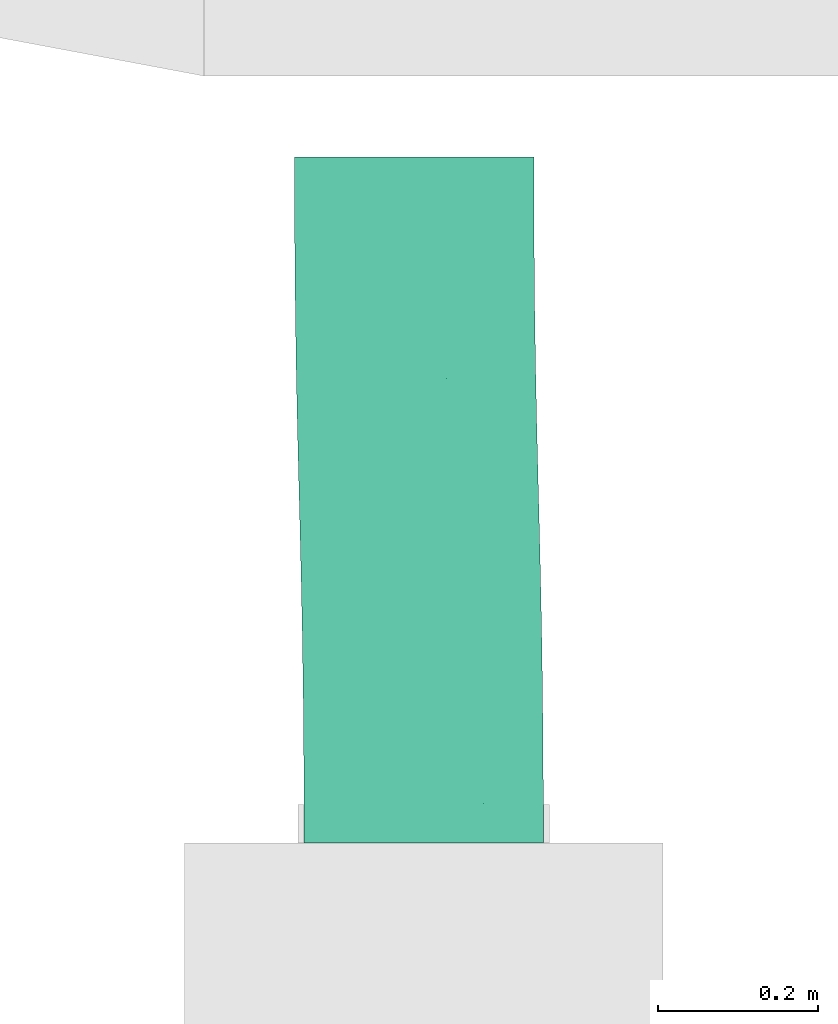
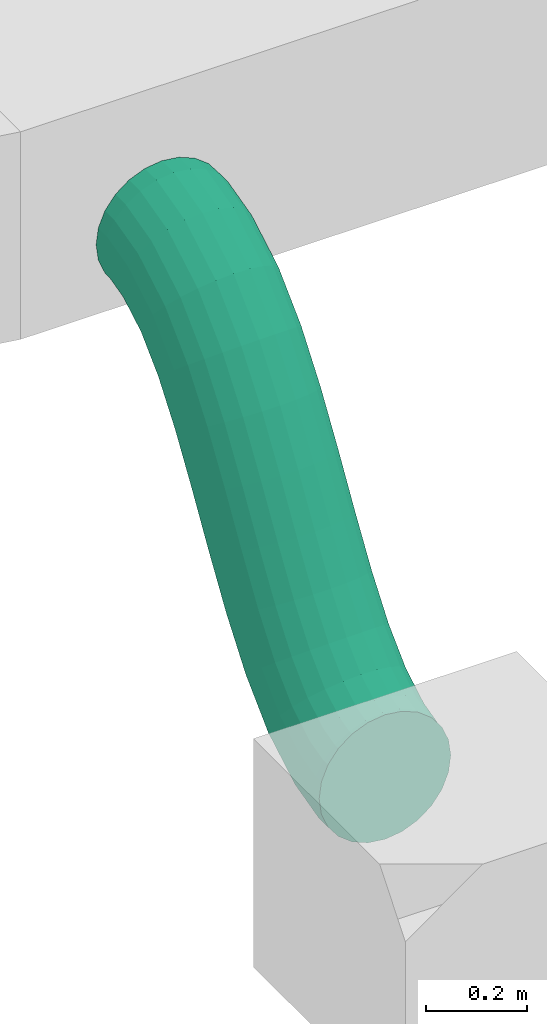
# One storey, part 45 of 60: 1 flow segment.
"""IFC2X3 building model written with IfcOpenShell, lengths in millimetres."""

from ifc_helpers import new_model, entity, si_unit, converted_unit, derived_unit, direction, frame, origin, place, context, subcontext, project, spatial, faceted_brep, type_object, element, save


model = new_model("IFC2X3")

# Units and contexts
model_context = context("Model", 3, precision=0.01, world=origin(), true_north=direction((6.123233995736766e-17, 1.0)))
body_context = subcontext(model_context, "Body", "Model", "MODEL_VIEW")
ifc_project = project(units=[si_unit("LENGTHUNIT", "METRE", prefix="MILLI"), converted_unit("PLANEANGLEUNIT", "DEGREE", entity("IfcPlaneAngleMeasure", 0.017453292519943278), si_unit("PLANEANGLEUNIT", "RADIAN"), dimensions=[0, 0, 0, 0, 0, 0, 0]), si_unit("AREAUNIT", "SQUARE_METRE"), derived_unit("THERMALTRANSMITTANCEUNIT", [(si_unit("MASSUNIT", "GRAM", prefix="KILO"), 1), (si_unit("THERMODYNAMICTEMPERATUREUNIT", "KELVIN"), -1), (si_unit("TIMEUNIT", "SECOND"), -3)])], contexts=[model_context])

# Site, building, storey
site_placement = place(None, origin())
site = spatial("IfcSite", under=ifc_project, at=site_placement, Name="Default", CompositionType="ELEMENT")
building_placement = place(site_placement, origin())
building = spatial("IfcBuilding", under=site, at=building_placement, Name="Praça Pedro II, 1301 - Centro (Sul), Teresina - PI, 64001-100", CompositionType="ELEMENT")
storey_placement = place(building_placement, frame((0.0, 0.0, 6040.0)))
storey = spatial("IfcBuildingStorey", under=building, at=storey_placement, Name="2PAV", CompositionType="ELEMENT", Elevation=6040.0)

# Flow segment
duct_segment_type = type_object("IfcDuctSegmentType", Name="Duto flexível redondo:Flexível - Redondo", PredefinedType="FLEXIBLESEGMENT")
flow_segment_placement = place(storey_placement, frame((26349.071672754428, -65980.92492894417, 2510.904727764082)))
element("IfcFlowSegment", 1, at=flow_segment_placement, inside=storey, type_object=duct_segment_type, Name="Duto flexível redondo:Flexível - Redondo", ObjectType="Duto flexível redondo:Flexível - Redondo", context=body_context, shape_type="Brep", body=[
    faceted_brep([(57.52001102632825, 0.0, 45.52925505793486), (88.58602820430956, 0.0, 21.691461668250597), (124.76317143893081, 0.0, 6.706398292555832), (163.58602820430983, 0.0, 1.5952722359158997), (202.40888496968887, 0.0, 6.706398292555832), (238.5860282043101, 0.0, 21.691461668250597), (269.6520453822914, 0.0, 45.529255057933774), (293.48983877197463, 0.0, 76.59527223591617), (308.47490214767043, 0.0, 112.77241547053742), (313.58602820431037, 0.0, 151.59527223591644), (308.47490214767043, 0.0, 190.4181290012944), (293.48983877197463, 0.0, 226.59527223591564), (269.6520453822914, 0.0, 257.66128941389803), (238.5860282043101, 0.0, 281.4990828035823), (202.40888496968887, 0.0, 296.48414617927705), (163.58602820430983, 0.0, 301.595272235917), (124.76317143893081, 0.0, 296.48414617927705), (88.58602820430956, 0.0, 281.4990828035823), (57.52001102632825, 0.0, 257.66128941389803), (33.68221763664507, 0.0, 226.59527223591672), (18.69715426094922, 0.0, 190.4181290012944), (13.586028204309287, 0.0, 151.59527223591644), (18.69715426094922, 0.0, 112.7724154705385), (33.68221763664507, 0.0, 76.59527223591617), (18.69715426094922, 32.751106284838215, 112.77241547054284), (33.68221763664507, 37.467786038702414, 76.59527223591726), (57.52001102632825, 41.53894192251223, 45.52925505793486), (13.586028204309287, 27.710336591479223, 151.59527223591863), (88.58602820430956, 44.68713139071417, 21.69146166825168), (124.76317143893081, 46.69781053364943, 6.706398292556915), (163.58602820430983, 47.43395489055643, 1.5952722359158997), (202.40888496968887, 46.8453974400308, 6.706398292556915), (238.5860282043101, 44.97224739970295, 21.69146166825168), (269.6520453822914, 41.94215684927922, 45.52925505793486), (293.48983877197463, 37.961621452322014, 76.59527223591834), (308.47490214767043, 33.30190811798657, 112.77241547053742), (313.58602820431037, 28.280568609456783, 151.59527223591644), (308.47490214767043, 23.23979891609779, 190.41812900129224), (293.48983877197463, 18.523119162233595, 226.59527223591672), (269.65204538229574, 14.451963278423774, 257.66128941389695), (202.40888496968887, 9.293094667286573, 296.48414617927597), (163.58602820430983, 8.55695031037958, 301.595272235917), (238.58602820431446, 11.303773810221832, 281.49908280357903), (88.58602820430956, 11.018657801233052, 281.4990828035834), (57.52001102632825, 14.048748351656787, 257.6612894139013), (124.76317143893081, 9.145507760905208, 296.48414617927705), (18.69715426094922, 22.688997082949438, 190.4181290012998), (33.68221763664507, 18.029283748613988, 226.59527223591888), (112.77241547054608, 859.4168935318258, 824.2063982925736), (76.59527223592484, 859.4168935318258, 839.1914616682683), (45.52925505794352, 859.4168935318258, 863.0292550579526), (21.69146166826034, 859.4168935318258, 894.0952722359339), (6.706398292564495, 859.4168935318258, 930.2724154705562), (1.5952722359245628, 859.4168935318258, 969.0952722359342), (6.706398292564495, 859.4168935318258, 1007.9181290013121), (21.69146166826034, 859.4168935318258, 1044.0952722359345), (45.52925505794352, 859.4168935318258, 1075.1612894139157), (76.59527223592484, 859.4168935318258, 1098.9990828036), (112.77241547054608, 859.4168935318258, 1113.9841461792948), (151.5952722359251, 859.4168935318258, 1119.0952722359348), (190.41812900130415, 859.4168935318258, 1113.9841461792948), (226.5952722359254, 859.4168935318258, 1098.9990828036), (257.66128941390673, 859.4168935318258, 1075.1612894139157), (281.4990828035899, 859.4168935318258, 1044.0952722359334), (296.48414617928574, 859.4168935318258, 1007.9181290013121), (301.5952722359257, 859.4168935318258, 969.0952722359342), (296.48414617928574, 859.4168935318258, 930.2724154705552), (281.4990828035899, 859.4168935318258, 894.0952722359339), (257.66128941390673, 859.4168935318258, 863.0292550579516), (226.5952722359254, 859.4168935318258, 839.1914616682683), (190.41812900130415, 859.4168935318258, 824.2063982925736), (151.5952722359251, 859.4168935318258, 819.0952722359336), (13.308991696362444, 99.3609277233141, 170.48293418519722), (18.380562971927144, 114.63184169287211, 134.35682428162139), (33.32861469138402, 128.92093147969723, 100.70304396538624), (57.1344618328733, 141.2544192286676, 71.81504274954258), (88.17577525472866, 150.79179813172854, 49.66149017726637), (124.33714074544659, 156.88311157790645, 35.752114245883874), (163.1542210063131, 159.11324662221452, 31.034815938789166), (201.9816961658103, 157.3302232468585, 35.8310713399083), (238.17353795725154, 151.65555154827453, 49.81402356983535), (269.2633321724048, 142.47595102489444, 72.03075754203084), (293.1323607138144, 130.4169962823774, 100.96723955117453), (308.1539887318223, 116.30048515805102, 134.6514961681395), (313.30451710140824, 101.08843455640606, 170.78800097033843), (308.2329458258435, 85.81752058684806, 206.91411087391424), (293.2848941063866, 71.52843080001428, 240.5678911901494), (269.47904696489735, 59.19494305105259, 269.45589240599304), (238.437733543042, 49.657564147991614, 291.6094449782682), (202.27636805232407, 43.56625070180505, 305.5188209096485), (163.45928779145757, 41.33611565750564, 310.2361192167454), (88.43997084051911, 48.79381073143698, 291.456911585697), (57.35017662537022, 57.97341125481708, 269.2401776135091), (124.63181263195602, 43.11913903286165, 305.43986381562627), (18.459520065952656, 84.14887712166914, 206.61943898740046), (33.48114808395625, 70.03236599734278, 240.30369560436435), (12.54772206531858, 185.81915888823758, 222.3844093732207), (17.540068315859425, 210.0877462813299, 191.65966516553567), (32.413988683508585, 232.79601540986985, 163.0599765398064), (56.15585007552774, 252.3964352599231, 138.5343650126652), (87.14768387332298, 267.5532696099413, 119.7542104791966), (123.27744782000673, 277.23360524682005, 107.99934943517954), (162.08295820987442, 280.7777432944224, 104.07085623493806), (200.91968363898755, 277.9441566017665, 108.23645119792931), (237.1409654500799, 268.92594941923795, 120.21225591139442), (268.2783831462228, 254.3376976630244, 139.1821390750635), (292.209973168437, 235.17356658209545, 163.85333450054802), (307.3048372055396, 212.73956003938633, 192.54454099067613), (312.5342852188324, 188.56451850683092, 223.30050023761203), (307.54193896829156, 164.29593111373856, 254.0252444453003), (292.6680186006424, 141.5876619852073, 282.6249330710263), (268.92615720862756, 121.98724213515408, 307.1505445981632), (237.93432341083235, 106.83040778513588, 325.9306991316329), (201.80455946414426, 97.15007214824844, 337.6855601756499), (162.99904907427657, 93.60593410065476, 341.6140533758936), (124.16232364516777, 96.43952079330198, 337.44845841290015), (87.94104183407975, 105.45772797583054, 325.4726536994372), (56.803624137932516, 120.04597973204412, 306.50277053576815), (17.77717007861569, 161.6441173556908, 253.1403686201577), (32.87203411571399, 139.2101108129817, 281.8315751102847), (11.408303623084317, 262.1597913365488, 300.06713254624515), (16.317497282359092, 291.99957292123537, 275.0115257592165), (31.11361124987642, 319.9208433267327, 251.71648450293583), (54.7883148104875, 344.02081411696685, 231.76952734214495), (85.72821604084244, 362.6571121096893, 216.53000644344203), (121.82481180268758, 374.55970439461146, 207.036469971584), (160.61817874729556, 378.9174489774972, 203.9358867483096), (199.4646130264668, 375.4333727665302, 207.4395563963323), (235.7167943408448, 364.34490979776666, 217.30870961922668), (266.9041964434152, 346.40772049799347, 232.87077993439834), (290.90144942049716, 322.84419467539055, 253.06523796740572), (306.07318013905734, 295.2601476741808, 276.5158647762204), (311.38546022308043, 265.53538671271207, 301.62453889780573), (306.4762665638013, 235.6956051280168, 326.68014568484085), (291.68015259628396, 207.77433472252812, 349.9751869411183), (268.00544903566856, 183.67436393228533, 369.9221441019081), (237.06554780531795, 165.0380659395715, 385.1616650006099), (200.96895204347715, 153.13547365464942, 394.6552014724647), (162.17558509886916, 148.77772907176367, 397.75578469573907), (123.32915081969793, 152.26180528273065, 394.25211504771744), (87.07696950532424, 163.35026825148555, 384.38296182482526), (55.88956740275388, 181.2874575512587, 368.82089150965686), (16.720583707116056, 232.4350303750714, 325.17580666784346), (31.892314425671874, 204.85098337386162, 348.62643347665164), (9.996982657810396, 331.3000615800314, 396.28749531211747), (14.851975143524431, 363.79514545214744, 374.9271900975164), (29.597372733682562, 394.200998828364, 355.0898656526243), (53.228300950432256, 420.44551304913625, 338.12740285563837), (84.13435108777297, 440.740167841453, 325.1957655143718), (120.20932690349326, 453.70191601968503, 317.1762233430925), (158.994778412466, 458.44743586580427, 314.61529488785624), (197.8475411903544, 454.6533280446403, 317.6875031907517), (234.1198636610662, 442.5781547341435, 326.1834823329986), (265.3398469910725, 423.0448190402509, 339.5242453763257), (289.37990090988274, 397.3844855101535, 356.8006413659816), (304.6017354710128, 367.3458634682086, 376.8353124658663), (309.9680078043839, 334.97603536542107, 398.26292894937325), (305.11301531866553, 302.48095149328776, 419.6232341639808), (290.3676177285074, 272.07509811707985, 439.4605586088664), (266.73668951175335, 245.83058389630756, 456.42302140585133), (235.830639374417, 225.53592910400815, 469.35465874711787), (199.75566355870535, 212.5741809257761, 477.37420091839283), (160.9702120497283, 207.8286610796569, 479.9351293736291), (122.11744927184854, 211.62276890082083, 476.86292107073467), (85.8451268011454, 223.697942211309, 468.3669419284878), (54.62514347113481, 243.2312779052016, 455.0261788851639), (15.36325499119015, 298.9302334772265, 417.7151117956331), (30.585089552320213, 268.8916114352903, 437.7497828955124), (8.421884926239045, 396.11176687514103, 503.67375177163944), (13.251278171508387, 429.660201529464, 484.0587392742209), (27.972722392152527, 461.05168182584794, 465.85449614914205), (51.58297549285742, 488.1469302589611, 450.30161148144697), (82.47303774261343, 509.09945042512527, 438.4599886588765), (118.53780244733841, 522.481362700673, 431.1366147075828), (157.3195154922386, 527.3807118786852, 428.8305654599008), (196.17526722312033, 523.4636154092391, 431.69899436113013), (232.45710237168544, 510.9970169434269, 439.5464227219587), (263.69247383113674, 490.8304945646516, 451.8380612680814), (287.75274265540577, 464.33836344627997, 467.73625514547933), (302.9982412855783, 433.3260185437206, 486.15756871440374), (308.39001418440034, 399.9068999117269, 505.84661989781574), (303.56062093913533, 366.35846525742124, 525.4616323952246), (288.83917671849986, 334.9669849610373, 543.6658755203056), (265.22892361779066, 307.8717365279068, 559.2187601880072), (234.3388613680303, 286.91921636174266, 571.0603830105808), (198.27409666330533, 273.537304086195, 578.3837569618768), (159.4923836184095, 268.63795490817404, 580.6898062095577), (120.63663188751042, 272.5550513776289, 577.8213773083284), (84.35479673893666, 285.0216498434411, 569.9739489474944), (53.11942527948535, 305.18817222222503, 557.6823104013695), (13.813657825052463, 362.6926482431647, 523.3628029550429), (29.05915645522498, 331.68030334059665, 541.7841165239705), (11.620679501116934, 493.0584282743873, 595.2289120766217), (26.342123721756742, 524.4499085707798, 577.0246689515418), (6.791286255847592, 459.509993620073, 614.8439245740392), (49.952376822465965, 551.545157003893, 561.4717842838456), (80.84243907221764, 572.4976771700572, 549.6301614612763), (116.90720377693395, 585.8795894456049, 542.3067875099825), (155.6889168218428, 590.7789386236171, 540.0007382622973), (194.54466855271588, 586.8618421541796, 542.8691671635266), (230.82650370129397, 574.3952436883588, 550.7165955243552), (262.0618751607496, 554.2287213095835, 563.0082340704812), (301.36764261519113, 496.72424528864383, 597.3277415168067), (306.7594155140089, 463.3051266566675, 617.0167927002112), (286.1221439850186, 527.7365901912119, 578.9064279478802), (301.93002226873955, 429.7566920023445, 636.6318051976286), (287.2085780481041, 398.3652117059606, 654.8360483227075), (263.59832494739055, 371.26996327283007, 670.3889329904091), (232.70826269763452, 350.3174431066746, 682.2305558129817), (196.64349799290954, 336.93553083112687, 689.5539297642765), (157.86178494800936, 332.0361816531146, 691.8599790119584), (119.00603321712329, 335.9532781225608, 688.9915501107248), (82.72419806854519, 348.41987658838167, 681.1441217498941), (51.4888266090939, 368.586398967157, 668.8524832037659), (27.428557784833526, 395.07853008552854, 652.9542893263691), (12.18305915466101, 426.09087498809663, 634.5329757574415), (10.0682851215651, 556.9359420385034, 701.067310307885), (24.813682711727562, 587.3417954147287, 681.2299858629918), (5.213292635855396, 524.4408581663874, 722.427615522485), (48.44461092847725, 613.5863096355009, 664.2675230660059), (79.35066106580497, 633.8809644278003, 651.3358857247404), (115.42563688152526, 646.8427126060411, 643.31634355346), (154.21108839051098, 651.5882324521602, 640.7554150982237), (193.06385116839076, 647.7941246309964, 643.8276234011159), (229.33617363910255, 635.7189513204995, 652.3236025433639), (260.55615696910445, 616.1856156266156, 665.6643655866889), (299.81804544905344, 560.4866600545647, 702.9754326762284), (305.1843177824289, 528.1168319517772, 724.4030491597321), (284.5962108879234, 590.5252820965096, 682.9407615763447), (300.3293252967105, 495.62174807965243, 745.7633543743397), (285.5839277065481, 465.21589470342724, 765.6006788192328), (261.9529994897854, 438.9713804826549, 782.563141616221), (231.04694935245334, 418.6767256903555, 795.4947789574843), (194.97197353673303, 405.7149775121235, 803.5143211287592), (156.1865220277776, 400.96945766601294, 806.0752495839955), (117.33375924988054, 404.7635654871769, 803.0030412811), (81.06143677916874, 416.83873879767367, 794.507062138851), (49.84145344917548, 436.3720744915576, 781.1662990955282), (25.80139953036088, 462.03240802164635, 763.8899031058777), (10.57956496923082, 492.07103006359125, 743.8552320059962), (8.70503387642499, 623.7212884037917, 794.0103987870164), (23.501147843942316, 651.6425588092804, 770.7153575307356), (3.7958402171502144, 593.8815068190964, 819.0660055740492), (47.175851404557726, 675.7425295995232, 750.7684003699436), (78.11575263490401, 694.378827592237, 735.5288794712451), (114.21234839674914, 706.2814198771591, 726.0353429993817), (153.00571534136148, 710.6391644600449, 722.9347597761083), (191.85214962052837, 707.1550882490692, 726.4384294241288), (228.1043309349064, 696.0666252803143, 736.307582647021), (259.2917330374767, 678.1294359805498, 751.8696529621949), (298.4607167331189, 626.9818631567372, 795.5147378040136), (303.7729968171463, 597.2571021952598, 820.6234119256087), (283.2889860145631, 654.5659101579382, 772.0641109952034), (298.86380315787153, 567.4173206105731, 845.6790187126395), (284.06768919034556, 539.4960502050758, 868.9740599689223), (260.3929856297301, 515.396079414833, 888.9210171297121), (229.4530843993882, 496.75978142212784, 904.1605380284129), (193.35648863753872, 484.8571891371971, 913.654074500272), (154.56312169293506, 480.49944455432, 916.7546577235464), (115.71668741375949, 483.983520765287, 913.2509880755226), (79.4645060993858, 495.0719837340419, 903.3818348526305), (48.27710399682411, 513.0091730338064, 887.8197645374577), (24.27985101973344, 536.572698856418, 867.6253065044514), (9.108120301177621, 564.1567458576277, 844.1746796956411), (7.639361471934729, 695.1209624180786, 866.6653000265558), (22.513281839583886, 717.8292315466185, 838.0656114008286), (2.6470152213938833, 670.8523750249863, 897.390044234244), (46.25514323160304, 737.4296513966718, 813.5399998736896), (77.24697702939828, 752.58648574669, 794.759845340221), (113.37674097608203, 762.2668213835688, 783.0049842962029), (152.18225136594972, 765.8109594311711, 779.0764910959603), (191.01897679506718, 762.9773727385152, 783.2420860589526), (227.2402586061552, 753.9591655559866, 795.2178907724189), (258.3776763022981, 739.3709137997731, 814.1877739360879), (297.40413036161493, 697.772776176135, 867.5501758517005), (302.6335783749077, 673.5977346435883, 898.3061350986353), (282.3092663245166, 720.2067827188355, 838.8589693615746), (297.64123212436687, 649.3291472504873, 929.0308793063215), (282.76731175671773, 626.620878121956, 957.6305679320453), (259.02545036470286, 607.0204582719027, 982.1561794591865), (228.0336165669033, 591.8636239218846, 1000.9363339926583), (191.90385262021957, 582.1832882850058, 1012.6911950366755), (153.09834223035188, 578.6391502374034, 1016.6196882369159), (114.26161680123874, 581.4727369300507, 1012.4540932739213), (78.04033499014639, 590.490944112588, 1000.4782885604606), (46.90291729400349, 605.0791958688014, 981.5084053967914), (22.97132727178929, 624.2433269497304, 956.837209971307), (7.876463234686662, 646.6773334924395, 928.14600348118), (6.948354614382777, 773.5993729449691, 913.776433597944), (21.89640633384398, 787.8884627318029, 880.1226532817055), (1.8767833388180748, 758.3284589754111, 949.9025435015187), (45.70225347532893, 800.2219504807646, 851.234652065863), (76.74356689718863, 809.7593293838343, 829.0810994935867), (112.90493238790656, 815.8506428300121, 815.1717235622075), (151.72201264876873, 818.0807778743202, 810.454425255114), (190.54948780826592, 816.2977544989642, 815.250680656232), (226.74132959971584, 810.6230828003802, 829.2336328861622), (257.8311238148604, 801.4434822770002, 851.4503668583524), (296.72178037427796, 775.268016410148, 914.0711054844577), (301.87230874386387, 760.0559658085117, 950.2076102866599), (281.7001523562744, 789.3845275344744, 880.3868488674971), (296.80073746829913, 744.785051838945, 986.3337201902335), (281.8526857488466, 730.4959620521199, 1019.9875005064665), (258.0468386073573, 718.1624743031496, 1048.8755017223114), (227.00552518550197, 708.6250954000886, 1071.0290542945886), (190.84415969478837, 702.5337819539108, 1084.938430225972), (152.02707943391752, 700.3036469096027, 1089.6557285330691), (113.19960427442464, 702.0866702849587, 1084.859473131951), (77.00776248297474, 707.7613419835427, 1070.876520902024), (45.917968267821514, 716.9409425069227, 1048.6597869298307), (22.04893972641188, 728.9998972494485, 1019.7233049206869), (7.027311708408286, 743.1164083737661, 986.0390483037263), (6.706398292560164, 836.1770946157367, 930.2724154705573), (21.69146166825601, 840.8937743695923, 894.0952722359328), (1.5952722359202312, 831.1363249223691, 969.0952722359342), (45.52925505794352, 844.9649302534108, 863.0292550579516), (76.59527223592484, 848.113119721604, 839.1914616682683), (112.77241547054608, 850.1237988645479, 824.2063982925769), (151.5952722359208, 850.8599432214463, 819.0952722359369), (226.59527223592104, 848.3982357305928, 839.1914616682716), (257.66128941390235, 845.3681451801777, 863.0292550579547), (190.41812900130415, 850.2713857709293, 824.206398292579), (296.4841461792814, 836.7278964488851, 930.2724154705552), (301.59527223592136, 831.7065569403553, 969.0952722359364), (281.49908280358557, 841.3876097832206, 894.0952722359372), (296.4841461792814, 826.6657872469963, 1007.9181290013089), (281.4990828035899, 821.9491074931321, 1044.0952722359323), (257.66128941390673, 817.8779516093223, 1075.1612894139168), (226.5952722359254, 814.729762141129, 1098.9990828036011), (190.41812900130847, 812.7190829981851, 1113.984146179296), (151.5952722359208, 811.9829386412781, 1119.0952722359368), (112.77241547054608, 812.5714960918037, 1113.9841461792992), (76.59527223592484, 814.4446461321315, 1098.9990828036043), (45.52925505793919, 817.4747366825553, 1075.1612894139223), (21.69146166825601, 821.4552720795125, 1044.0952722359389), (6.706398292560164, 826.114985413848, 1007.9181290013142)], [[[0, 1, 2, 3, 4, 5, 6, 7, 8, 9, 10, 11, 12, 13, 14, 15, 16, 17, 18, 19, 20, 21, 22, 23]], [[23, 22, 24, 25]], [[0, 23, 25, 26]], [[21, 27, 24, 22]], [[2, 1, 28, 29]], [[3, 2, 29, 30]], [[0, 26, 28, 1]], [[3, 30, 31, 4]], [[4, 31, 32, 5]], [[5, 32, 33, 6]], [[7, 34, 35, 8]], [[8, 35, 36, 9]], [[6, 33, 34, 7]], [[37, 38, 11, 10]], [[36, 37, 10, 9]], [[11, 38, 39, 12]], [[40, 41, 15, 14]], [[42, 40, 14, 13]], [[12, 39, 42, 13]], [[17, 43, 44, 18]], [[45, 43, 17, 16]], [[15, 41, 45, 16]], [[46, 27, 21, 20]], [[47, 46, 20, 19]], [[44, 47, 19, 18]], [[48, 49, 50, 51, 52, 53, 54, 55, 56, 57, 58, 59, 60, 61, 62, 63, 64, 65, 66, 67, 68, 69, 70, 71]], [[24, 27, 72, 73]], [[25, 24, 73, 74]], [[26, 25, 74, 75]], [[29, 28, 76, 77]], [[30, 29, 77, 78]], [[75, 76, 28, 26]], [[30, 78, 79, 31]], [[31, 79, 80, 32]], [[32, 80, 81, 33]], [[33, 81, 82, 34]], [[34, 82, 83, 35]], [[84, 36, 35, 83]], [[85, 86, 38, 37]], [[84, 85, 37, 36]], [[87, 39, 38, 86]], [[88, 89, 40, 42]], [[88, 42, 39, 87]], [[90, 41, 40, 89]], [[43, 91, 92, 44]], [[93, 91, 43, 45]], [[41, 90, 93, 45]], [[94, 72, 27, 46]], [[95, 94, 46, 47]], [[44, 92, 95, 47]], [[72, 96, 97, 73]], [[73, 97, 98, 74]], [[99, 75, 74, 98]], [[76, 100, 101, 77]], [[77, 101, 102, 78]], [[100, 76, 75, 99]], [[79, 78, 102, 103]], [[80, 79, 103, 104]], [[104, 105, 81, 80]], [[82, 81, 105, 106]], [[83, 82, 106, 107]], [[84, 83, 107, 108]], [[109, 110, 86, 85]], [[108, 109, 85, 84]], [[87, 86, 110, 111]], [[112, 113, 89, 88]], [[111, 112, 88, 87]], [[90, 89, 113, 114]], [[115, 116, 91, 93]], [[114, 115, 93, 90]], [[117, 92, 91, 116]], [[118, 96, 72, 94]], [[119, 118, 94, 95]], [[119, 95, 92, 117]], [[96, 120, 121, 97]], [[97, 121, 122, 98]], [[123, 99, 98, 122]], [[100, 124, 125, 101]], [[101, 125, 126, 102]], [[124, 100, 99, 123]], [[103, 102, 126, 127]], [[104, 103, 127, 128]], [[128, 129, 105, 104]], [[106, 105, 129, 130]], [[107, 106, 130, 131]], [[108, 107, 131, 132]], [[133, 134, 110, 109]], [[132, 133, 109, 108]], [[111, 110, 134, 135]], [[136, 137, 113, 112]], [[135, 136, 112, 111]], [[114, 113, 137, 138]], [[139, 140, 116, 115]], [[138, 139, 115, 114]], [[141, 117, 116, 140]], [[142, 120, 96, 118]], [[143, 142, 118, 119]], [[143, 119, 117, 141]], [[120, 144, 145, 121]], [[121, 145, 146, 122]], [[147, 123, 122, 146]], [[124, 148, 149, 125]], [[125, 149, 150, 126]], [[148, 124, 123, 147]], [[127, 126, 150, 151]], [[128, 127, 151, 152]], [[152, 153, 129, 128]], [[130, 129, 153, 154]], [[131, 130, 154, 155]], [[132, 131, 155, 156]], [[157, 158, 134, 133]], [[156, 157, 133, 132]], [[135, 134, 158, 159]], [[160, 161, 137, 136]], [[159, 160, 136, 135]], [[138, 137, 161, 162]], [[163, 164, 140, 139]], [[162, 163, 139, 138]], [[165, 141, 140, 164]], [[166, 144, 120, 142]], [[167, 166, 142, 143]], [[167, 143, 141, 165]], [[144, 168, 169, 145]], [[145, 169, 170, 146]], [[171, 147, 146, 170]], [[148, 172, 173, 149]], [[149, 173, 174, 150]], [[172, 148, 147, 171]], [[151, 150, 174, 175]], [[152, 151, 175, 176]], [[176, 177, 153, 152]], [[154, 153, 177, 178]], [[155, 154, 178, 179]], [[156, 155, 179, 180]], [[181, 182, 158, 157]], [[180, 181, 157, 156]], [[159, 158, 182, 183]], [[184, 185, 161, 160]], [[183, 184, 160, 159]], [[162, 161, 185, 186]], [[187, 188, 164, 163]], [[186, 187, 163, 162]], [[189, 165, 164, 188]], [[190, 168, 144, 166]], [[191, 190, 166, 167]], [[191, 167, 165, 189]], [[192, 193, 170, 169]], [[194, 192, 169, 168]], [[195, 171, 170, 193]], [[196, 197, 173, 172]], [[196, 172, 171, 195]], [[198, 174, 173, 197]], [[199, 200, 176, 175]], [[198, 199, 175, 174]], [[200, 201, 177, 176]], [[202, 203, 180, 179]], [[204, 202, 179, 178]], [[201, 204, 178, 177]], [[181, 180, 203, 205]], [[182, 181, 205, 206]], [[183, 182, 206, 207]], [[185, 184, 208, 209]], [[186, 185, 209, 210]], [[207, 208, 184, 183]], [[186, 210, 211, 187]], [[187, 211, 212, 188]], [[213, 189, 188, 212]], [[189, 213, 214, 191]], [[191, 214, 215, 190]], [[194, 168, 190, 215]], [[216, 217, 193, 192]], [[218, 216, 192, 194]], [[219, 195, 193, 217]], [[220, 221, 197, 196]], [[220, 196, 195, 219]], [[222, 198, 197, 221]], [[223, 224, 200, 199]], [[222, 223, 199, 198]], [[201, 200, 224, 225]], [[226, 227, 203, 202]], [[228, 226, 202, 204]], [[225, 228, 204, 201]], [[205, 203, 227, 229]], [[206, 205, 229, 230]], [[207, 206, 230, 231]], [[209, 208, 232, 233]], [[210, 209, 233, 234]], [[231, 232, 208, 207]], [[210, 234, 235, 211]], [[211, 235, 236, 212]], [[212, 236, 237, 213]], [[213, 237, 238, 214]], [[214, 238, 239, 215]], [[218, 194, 215, 239]], [[240, 241, 217, 216]], [[242, 240, 216, 218]], [[243, 219, 217, 241]], [[244, 245, 221, 220]], [[244, 220, 219, 243]], [[246, 222, 221, 245]], [[247, 248, 224, 223]], [[246, 247, 223, 222]], [[225, 224, 248, 249]], [[250, 251, 227, 226]], [[252, 250, 226, 228]], [[249, 252, 228, 225]], [[229, 227, 251, 253]], [[230, 229, 253, 254]], [[231, 230, 254, 255]], [[233, 232, 256, 257]], [[234, 233, 257, 258]], [[255, 256, 232, 231]], [[234, 258, 259, 235]], [[235, 259, 260, 236]], [[236, 260, 261, 237]], [[237, 261, 262, 238]], [[238, 262, 263, 239]], [[242, 218, 239, 263]], [[264, 265, 241, 240]], [[266, 264, 240, 242]], [[267, 243, 241, 265]], [[268, 269, 245, 244]], [[268, 244, 243, 267]], [[270, 246, 245, 269]], [[271, 272, 248, 247]], [[270, 271, 247, 246]], [[249, 248, 272, 273]], [[274, 275, 251, 250]], [[276, 274, 250, 252]], [[273, 276, 252, 249]], [[253, 251, 275, 277]], [[254, 253, 277, 278]], [[255, 254, 278, 279]], [[257, 256, 280, 281]], [[258, 257, 281, 282]], [[279, 280, 256, 255]], [[258, 282, 283, 259]], [[259, 283, 284, 260]], [[260, 284, 285, 261]], [[261, 285, 286, 262]], [[262, 286, 287, 263]], [[266, 242, 263, 287]], [[288, 289, 265, 264]], [[290, 288, 264, 266]], [[291, 267, 265, 289]], [[292, 293, 269, 268]], [[292, 268, 267, 291]], [[294, 270, 269, 293]], [[295, 296, 272, 271]], [[294, 295, 271, 270]], [[273, 272, 296, 297]], [[298, 299, 275, 274]], [[300, 298, 274, 276]], [[297, 300, 276, 273]], [[277, 275, 299, 301]], [[278, 277, 301, 302]], [[279, 278, 302, 303]], [[281, 280, 304, 305]], [[282, 281, 305, 306]], [[303, 304, 280, 279]], [[282, 306, 307, 283]], [[283, 307, 308, 284]], [[284, 308, 309, 285]], [[285, 309, 310, 286]], [[286, 310, 311, 287]], [[290, 266, 287, 311]], [[312, 313, 289, 288]], [[314, 312, 288, 290]], [[291, 289, 313, 315]], [[316, 317, 293, 292]], [[315, 316, 292, 291]], [[294, 293, 317, 318]], [[319, 320, 297, 296]], [[321, 319, 296, 295]], [[318, 321, 295, 294]], [[322, 323, 299, 298]], [[324, 322, 298, 300]], [[300, 297, 320, 324]], [[299, 323, 325, 301]], [[301, 325, 326, 302]], [[327, 303, 302, 326]], [[304, 328, 329, 305]], [[305, 329, 330, 306]], [[328, 304, 303, 327]], [[307, 306, 330, 331]], [[308, 307, 331, 332]], [[332, 333, 309, 308]], [[310, 309, 333, 334]], [[311, 310, 334, 335]], [[290, 311, 335, 314]], [[312, 314, 53, 52]], [[313, 312, 52, 51]], [[315, 313, 51, 50]], [[317, 316, 49, 48]], [[318, 317, 48, 71]], [[315, 50, 49, 316]], [[318, 71, 70, 321]], [[321, 70, 69, 319]], [[319, 69, 68, 320]], [[324, 67, 66, 322]], [[322, 66, 65, 323]], [[324, 320, 68, 67]], [[323, 65, 64, 325]], [[325, 64, 63, 326]], [[326, 63, 62, 327]], [[328, 61, 60, 329]], [[329, 60, 59, 330]], [[327, 62, 61, 328]], [[331, 330, 59, 58]], [[332, 331, 58, 57]], [[333, 332, 57, 56]], [[335, 334, 55, 54]], [[314, 335, 54, 53]], [[56, 55, 334, 333]]]),
])

save(model, "model.ifc")
